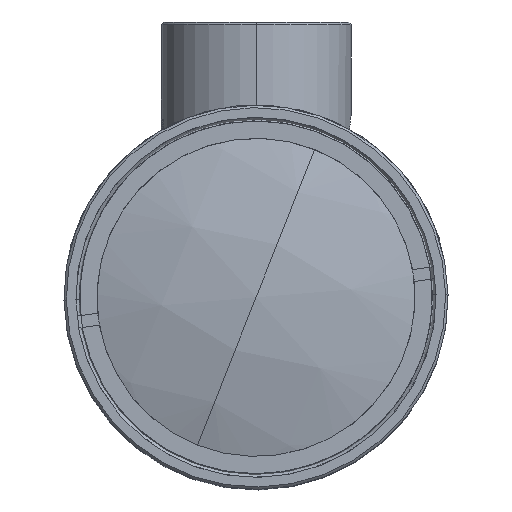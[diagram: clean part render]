
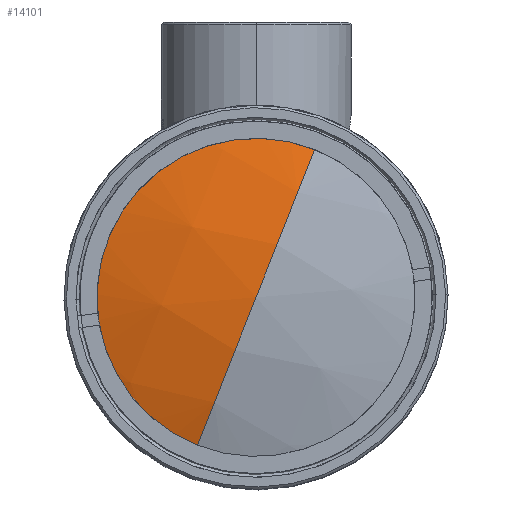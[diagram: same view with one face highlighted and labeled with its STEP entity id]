
A CAD part, top view. The second image highlights one B-rep face of the part: STEP entity #14101.
In plain terms, the highlighted spherical face has radius 45.2 mm.
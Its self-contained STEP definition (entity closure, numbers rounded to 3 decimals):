
#173 = CARTESIAN_POINT ( 'NONE',  ( 0., 0., 102.485 ) ) ;
#221 = EDGE_CURVE ( 'NONE', #2902, #15381, #3598, .T. ) ;
#296 = AXIS2_PLACEMENT_3D ( 'NONE', #22213, #18349, #22338 ) ;
#878 = FACE_OUTER_BOUND ( 'NONE', #12901, .T. ) ;
#1880 = ORIENTED_EDGE ( 'NONE', *, *, #221, .F. ) ;
#2322 = CIRCLE ( 'NONE', #296, 45.2 ) ;
#2902 = VERTEX_POINT ( 'NONE', #5638 ) ;
#3598 = CIRCLE ( 'NONE', #6873, 45.2 ) ;
#3793 = CARTESIAN_POINT ( 'NONE',  ( 0., 0., 59.507 ) ) ;
#4496 = ORIENTED_EDGE ( 'NONE', *, *, #21705, .T. ) ;
#5365 = EDGE_CURVE ( 'NONE', #21016, #15381, #2322, .T. ) ;
#5638 = CARTESIAN_POINT ( 'NONE',  ( 5.145, 13.02, 102.485 ) ) ;
#5781 = CARTESIAN_POINT ( 'NONE',  ( -5.145, -13.02, 102.485 ) ) ;
#6007 = CARTESIAN_POINT ( 'NONE',  ( -13.02, 5.145, 102.485 ) ) ;
#6652 = ORIENTED_EDGE ( 'NONE', *, *, #16743, .T. ) ;
#6873 = AXIS2_PLACEMENT_3D ( 'NONE', #3793, #19330, #19084 ) ;
#7594 = CIRCLE ( 'NONE', #19792, 14. ) ;
#10556 = DIRECTION ( 'NONE',  ( -0.93, 0.367, 0. ) ) ;
#10683 = SPHERICAL_SURFACE ( 'NONE', #19228, 45.2 ) ;
#11766 = AXIS2_PLACEMENT_3D ( 'NONE', #23975, #19955, #22150 ) ;
#12159 = CARTESIAN_POINT ( 'NONE',  ( 0., 0., 104.707 ) ) ;
#12901 = EDGE_LOOP ( 'NONE', ( #6652, #4496, #22125, #1880 ) ) ;
#14101 = ADVANCED_FACE ( 'NONE', ( #878 ), #10683, .T. ) ;
#15381 = VERTEX_POINT ( 'NONE', #12159 ) ;
#15585 = DIRECTION ( 'NONE',  ( 0.93, -0.367, 0. ) ) ;
#16743 = EDGE_CURVE ( 'NONE', #2902, #22784, #7594, .T. ) ;
#18349 = DIRECTION ( 'NONE',  ( -0.93, 0.367, 0. ) ) ;
#19084 = DIRECTION ( 'NONE',  ( 0.367, 0.93, 0. ) ) ;
#19228 = AXIS2_PLACEMENT_3D ( 'NONE', #22533, #10556, #24742 ) ;
#19330 = DIRECTION ( 'NONE',  ( 0.93, -0.367, 0. ) ) ;
#19792 = AXIS2_PLACEMENT_3D ( 'NONE', #173, #23270, #15585 ) ;
#19955 = DIRECTION ( 'NONE',  ( 0., 0., 1. ) ) ;
#20300 = CIRCLE ( 'NONE', #11766, 14. ) ;
#21016 = VERTEX_POINT ( 'NONE', #5781 ) ;
#21705 = EDGE_CURVE ( 'NONE', #22784, #21016, #20300, .T. ) ;
#22125 = ORIENTED_EDGE ( 'NONE', *, *, #5365, .T. ) ;
#22150 = DIRECTION ( 'NONE',  ( 0.93, -0.367, 0. ) ) ;
#22213 = CARTESIAN_POINT ( 'NONE',  ( 0., 0., 59.507 ) ) ;
#22338 = DIRECTION ( 'NONE',  ( -0.367, -0.93, 0. ) ) ;
#22533 = CARTESIAN_POINT ( 'NONE',  ( 0., 0., 59.507 ) ) ;
#22784 = VERTEX_POINT ( 'NONE', #6007 ) ;
#23270 = DIRECTION ( 'NONE',  ( 0., 0., 1. ) ) ;
#23975 = CARTESIAN_POINT ( 'NONE',  ( 0., 0., 102.485 ) ) ;
#24742 = DIRECTION ( 'NONE',  ( 0.367, 0.93, 0. ) ) ;
